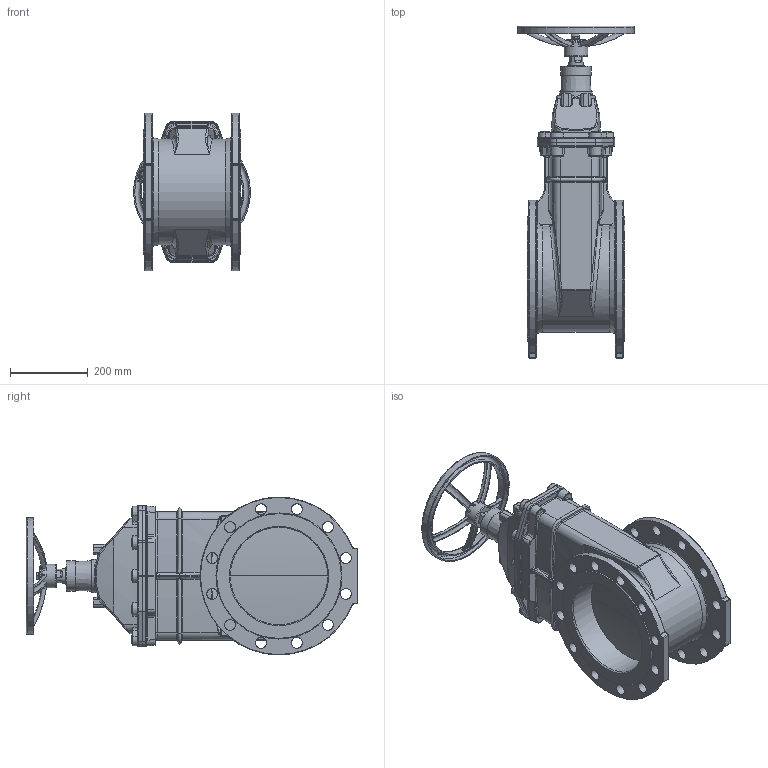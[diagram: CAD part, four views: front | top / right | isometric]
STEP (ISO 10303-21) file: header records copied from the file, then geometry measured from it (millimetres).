
FILE_DESCRIPTION (( 'STEP AP203' ), '1' );
FILE_NAME ('20.DN250..STEP', '2013-01-17T09:27:49', ( 'luca.saino' ), ( 'Hewlett-Packard Company' ), 'SwSTEP 2.0', 'SolidWorks 2012', '' );
FILE_SCHEMA (( 'CONFIG_CONTROL_DESIGN' ));
Products named in the file (1): 20.DN250.
Bounding box: 299.96 x 851.5 x 404.97 mm (x, y, z)
Volume: 26109633.5 mm3; surface area: 1374058.3 mm2
Topology: 1 solids, 35 shells, 1986 faces, 4687 edges, 2740 vertices
Faces by surface type: cylinder 533, plane 473, bspline 448, torus 312, cone 188, sphere 32
Full cylindrical faces by diameter (mm): 8 x2, 8.5 x11, 10 x11, 10.2 x14, 10.5 x1, 11 x1, 12 x10, 13 x10, 18 x10, 20 x1, 28 x24, 28.5 x10, 36 x2, 52 x1, 60 x1, 77 x1, 250 x2, 260 x1, 266 x1, 294 x1, 300 x1
Entity records: 81005 total; most frequent: CARTESIAN_POINT 40484, ORIENTED_EDGE 8494, DIRECTION 8010, EDGE_CURVE 4247, AXIS2_PLACEMENT_3D 3317, VERTEX_POINT 2603, EDGE_LOOP 2362, FACE_OUTER_BOUND 2159
